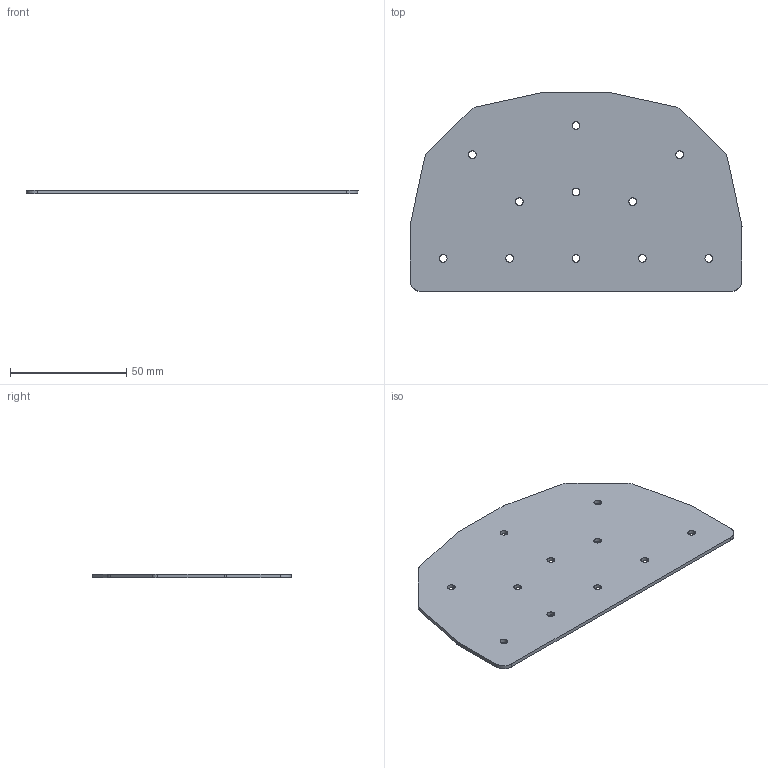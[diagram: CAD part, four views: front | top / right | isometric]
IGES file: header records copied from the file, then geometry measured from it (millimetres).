
Start section: SolidWorks IGES file using analytic representation for surfaces
Global section: file name: C:\Working\Gusset Convert\DRP-002-0002-01.igs; native system: SolidWorks 2010; preprocessor: SolidWorks 2010; author: mbush2; date: 100623.153932; units: inch
Bounding box: 142.88 x 85.72 x 1.59 mm (x, y, z)
Surface area: 22240.6 mm2 (no closed solid volume)
Topology: 0 solids, 0 shells, 44 faces, 964 edges, 964 vertices
Faces by surface type: revolution 32, bspline 12
